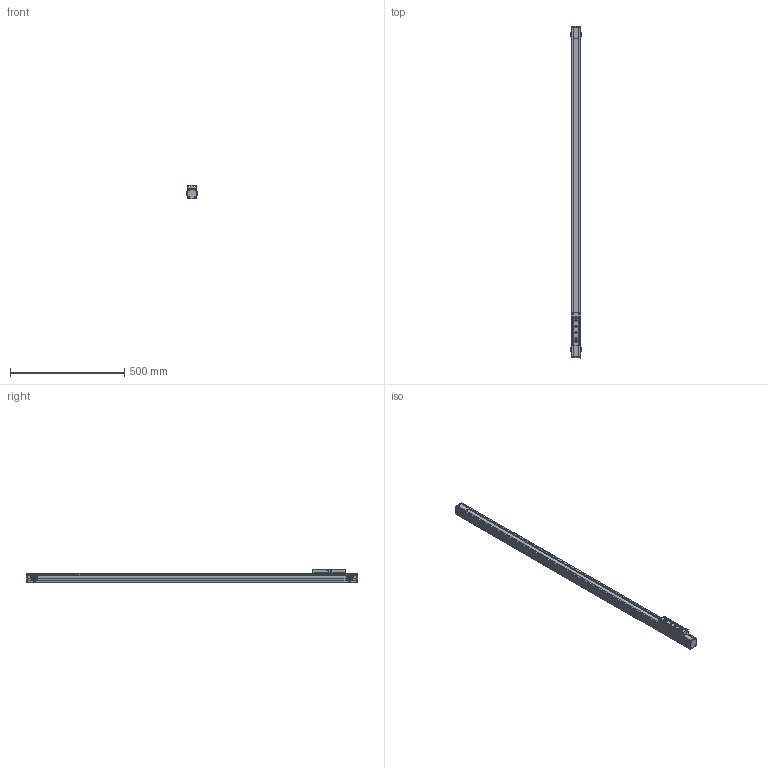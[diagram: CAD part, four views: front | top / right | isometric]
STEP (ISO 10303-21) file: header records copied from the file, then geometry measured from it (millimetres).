
FILE_DESCRIPTION (( 'STEP AP214' ), '1' );
FILE_NAME ('TKR40-1200A1-F0-R3-高速内滚轮直线模组.step', '2025-10-10T03:22:56', ( '' ), ( '' ), 'SwSTEP 2.0', 'SolidWorks 2024', '' );
FILE_SCHEMA (( 'AUTOMOTIVE_DESIGN' ));
Length unit declared in the file: millimetre
Products named in the file (3): TKR40-R3-02; TKR40-1200-R3-01; TKR40-1200A1-F0-R3-高速内滚轮直线模组
Assembly tree (2 placements, depth 2):
  TKR40-1200A1-F0-R3-高速内滚轮直线模组
    TKR40-1200-R3-01
    TKR40-R3-02
Bounding box: 45 x 1452 x 60 mm (x, y, z)
Volume: 1121039.8 mm3; surface area: 728193.3 mm2
Topology: 16 solids, 56 shells, 2702 faces, 7175 edges, 4621 vertices
Faces by surface type: cylinder 1388, plane 792, torus 216, cone 186, bspline 96, sphere 24
Entity records: 146594 total; most frequent: CARTESIAN_POINT 52029, ORIENTED_EDGE 14178, DIRECTION 13212, EDGE_CURVE 7139, AXIS2_PLACEMENT_3D 5104, VERTEX_POINT 4625, LINE 3004, VECTOR 3004
